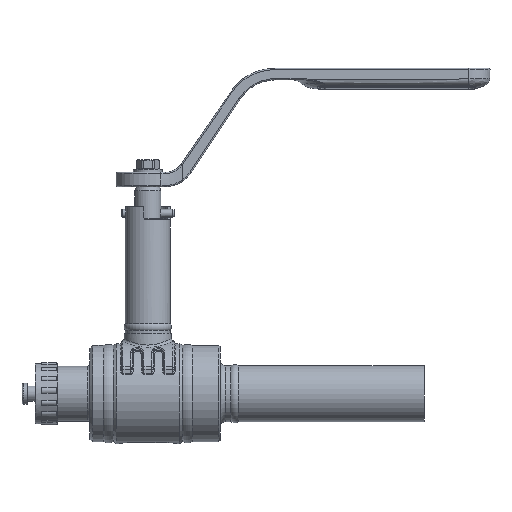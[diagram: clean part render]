
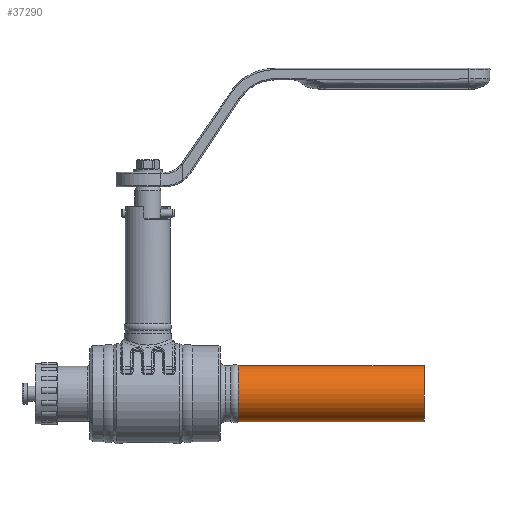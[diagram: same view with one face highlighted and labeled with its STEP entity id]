
A CAD part, front view. The second image highlights one B-rep face of the part: STEP entity #37290.
In plain terms, the highlighted cylindrical face has radius 10.65 mm (diameter 21.3 mm), a partial arc.
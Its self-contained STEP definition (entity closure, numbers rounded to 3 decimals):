
#9904=CARTESIAN_POINT('',(34.448,0.,0.));
#9905=DIRECTION('',(-1.,0.,0.));
#9906=DIRECTION('',(0.,0.,-1.));
#9907=AXIS2_PLACEMENT_3D('',#9904,#9905,#9906);
#9909=DIRECTION('',(1.,0.,0.));
#9910=VECTOR('',#9909,70.552);
#9911=CARTESIAN_POINT('',(34.448,0.,10.65));
#9912=LINE('',#9911,#9910);
#9913=DIRECTION('',(1.,0.,0.));
#9914=VECTOR('',#9913,70.552);
#9915=CARTESIAN_POINT('',(34.448,0.,-10.65));
#9916=LINE('',#9915,#9914);
#9922=CARTESIAN_POINT('',(105.,0.,0.));
#9923=DIRECTION('',(1.,0.,0.));
#9924=DIRECTION('',(0.,0.,1.));
#9925=AXIS2_PLACEMENT_3D('',#9922,#9923,#9924);
#14351=CARTESIAN_POINT('',(105.,0.,10.65));
#14352=CARTESIAN_POINT('',(105.,0.,-10.65));
#14353=VERTEX_POINT('',#14351);
#14354=VERTEX_POINT('',#14352);
#15299=CARTESIAN_POINT('',(34.448,0.,10.65));
#15300=CARTESIAN_POINT('',(34.448,0.,-10.65));
#15301=VERTEX_POINT('',#15299);
#15302=VERTEX_POINT('',#15300);
#37276=CARTESIAN_POINT('',(108.6,0.,0.));
#37277=DIRECTION('',(-1.,0.,0.));
#37278=DIRECTION('',(0.,0.,-1.));
#37279=AXIS2_PLACEMENT_3D('',#37276,#37277,#37278);
#37280=CYLINDRICAL_SURFACE('',#37279,10.65);
#37281=ORIENTED_EDGE('',*,*,#37246,.T.);
#37283=ORIENTED_EDGE('',*,*,#37282,.T.);
#37285=ORIENTED_EDGE('',*,*,#37284,.T.);
#37287=ORIENTED_EDGE('',*,*,#37286,.F.);
#37288=EDGE_LOOP('',(#37281,#37283,#37285,#37287));
#37289=FACE_OUTER_BOUND('',#37288,.F.);
#9908=CIRCLE('',#9907,10.65);
#9926=CIRCLE('',#9925,10.65);
#37246=EDGE_CURVE('',#15302,#15301,#9908,.T.);
#37282=EDGE_CURVE('',#15301,#14353,#9912,.T.);
#37284=EDGE_CURVE('',#14353,#14354,#9926,.T.);
#37286=EDGE_CURVE('',#15302,#14354,#9916,.T.);
#37290=ADVANCED_FACE('',(#37289),#37280,.T.);
